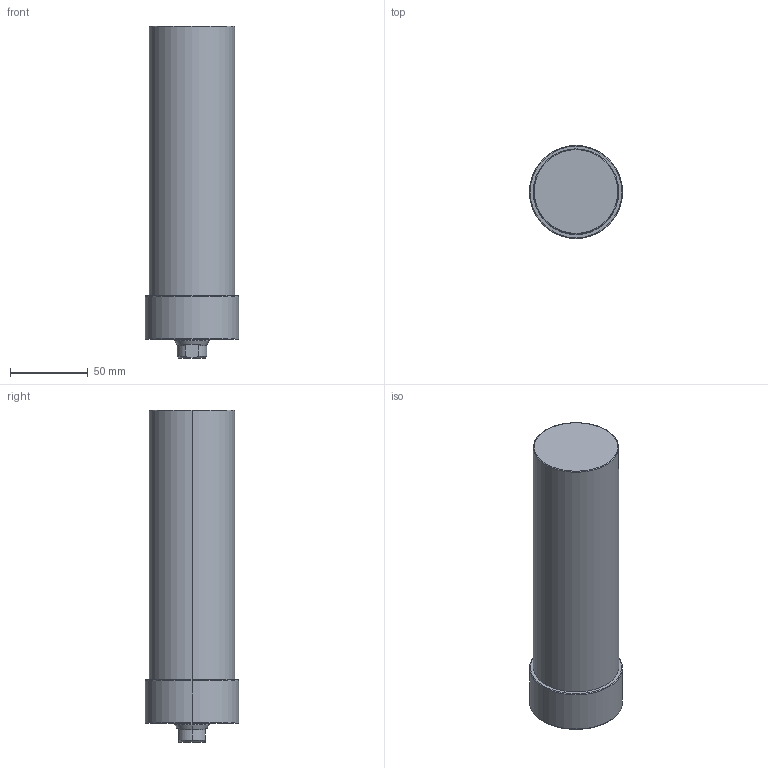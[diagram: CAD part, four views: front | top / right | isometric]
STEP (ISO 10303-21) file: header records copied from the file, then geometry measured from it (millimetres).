
FILE_DESCRIPTION (( 'STEP AP203' ), '1' );
FILE_NAME ('CLLU-055GA-145.STEP', '2020-01-06T07:11:21', ( '' ), ( '' ), 'SwSTEP 2.0', 'SolidWorks 2015', '' );
FILE_SCHEMA (( 'CONFIG_CONTROL_DESIGN' ));
Length unit declared in the file: millimetre
Products named in the file (1): CLLU-055GA-145
Bounding box: 60 x 60 x 214 mm (x, y, z)
Volume: 492895.3 mm3; surface area: 43387.7 mm2
Topology: 1 solids, 1 shells, 64 faces, 143 edges, 80 vertices
Faces by surface type: cone 25, cylinder 23, plane 10, torus 6
Entity records: 1805 total; most frequent: DIRECTION 330, CARTESIAN_POINT 318, ORIENTED_EDGE 266, AXIS2_PLACEMENT_3D 140, EDGE_CURVE 133, VERTEX_POINT 80, CIRCLE 75, EDGE_LOOP 73
